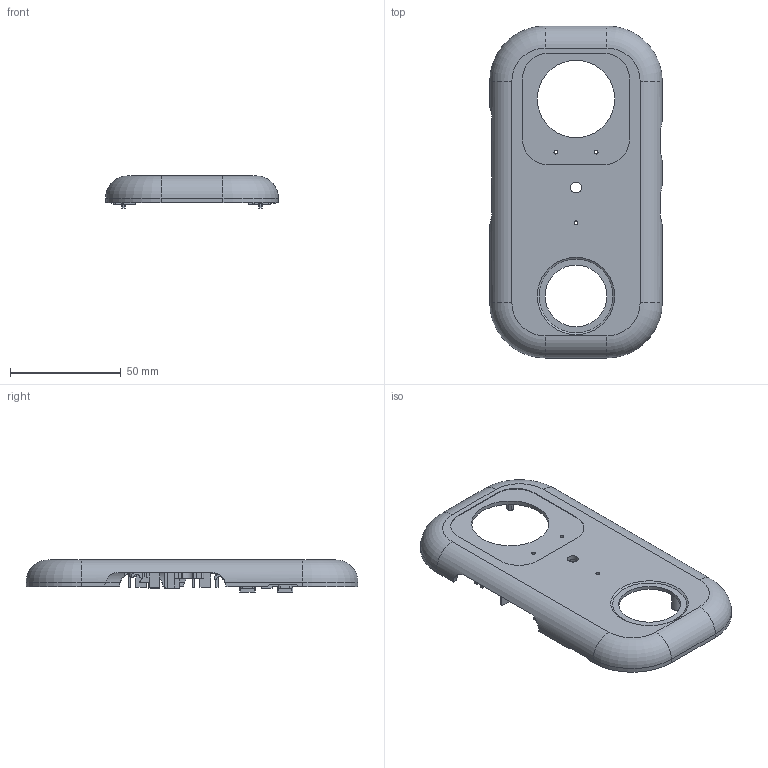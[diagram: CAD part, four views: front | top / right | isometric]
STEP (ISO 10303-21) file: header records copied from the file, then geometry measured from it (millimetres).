
FILE_DESCRIPTION(('Open CASCADE Model'),'2;1');
FILE_NAME('Open CASCADE Shape Model','2026-09-15T13:32:19',('Author'),( 'Open CASCADE'),'Open CASCADE STEP processor 7.7','Open CASCADE 7.7' ,'Unknown');
FILE_SCHEMA(('AUTOMOTIVE_DESIGN { 1 0 10303 214 1 1 1 1 }'));
Length unit declared in the file: millimetre
Products named in the file (1): P01_PASSIVE_ONLY_DIAGNOSTIC
Bounding box: 78 x 150 x 14.51 mm (x, y, z)
Volume: 30542.2 mm3; surface area: 31610.1 mm2
Topology: 1 solids, 1 shells, 784 faces, 2185 edges, 1441 vertices
Faces by surface type: plane 542, cylinder 222, torus 11, cone 9
Full cylindrical faces by diameter (mm): 1.7 x12, 1.8 x1, 2.1 x4, 3 x4, 4.2 x2, 4.9 x1, 5.7 x1, 6 x1, 27.9 x1, 35 x1
Entity records: 60367 total; most frequent: CARTESIAN_POINT 16962, DIRECTION 8123, LINE 5021, VECTOR 5021, ORIENTED_EDGE 4370, PCURVE 4370, DEFINITIONAL_REPRESENTATION 4370, EDGE_CURVE 2185
